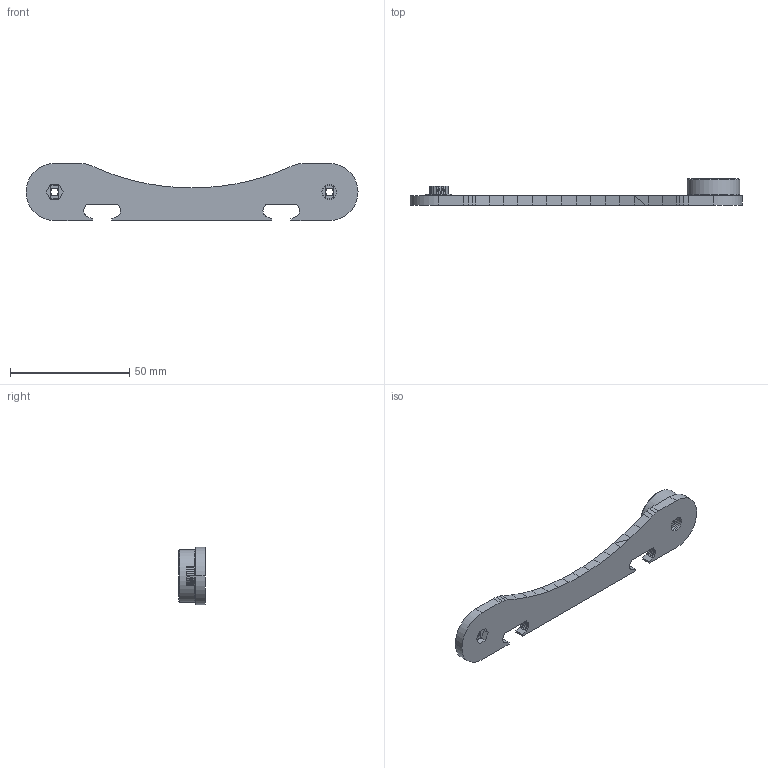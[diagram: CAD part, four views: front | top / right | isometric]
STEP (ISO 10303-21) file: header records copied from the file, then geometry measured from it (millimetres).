
FILE_DESCRIPTION(/* description */ (''),/* implementation_level */ '2;1');
FILE_NAME(/* name */ 'Rollerholder.step',/* time_stamp */ '2025-08-29T15:43:16+01:00',/* author */ (''),/* organization */ (''),/* preprocessor_version */ 'ST-DEVELOPER v20.1',/* originating_system */ 'Autodesk Translation Framework v14.10.0.0',/* authorisation */ '');
FILE_SCHEMA (('AUTOMOTIVE_DESIGN { 1 0 10303 214 3 1 1 }'));
Length unit declared in the file: millimetre
Products named in the file (2): Rollerholder (v10~recovered); 5972K91_Ball Bearing
Assembly tree (1 placements, depth 2):
  Rollerholder (v10~recovered)
    5972K91_Ball Bearing
Bounding box: 139 x 11 x 24 mm (x, y, z)
Volume: 11593.3 mm3; surface area: 9324.2 mm2
Topology: 11 solids, 11 shells, 541 faces, 1345 edges, 838 vertices
Faces by surface type: plane 466, cylinder 42, torus 15, sphere 14, cone 4
Full cylindrical faces by diameter (mm): 8 x1, 13.154 x2, 16.846 x2, 17.098 x2, 18.564 x2, 22 x1
Entity records: 15974 total; most frequent: CARTESIAN_POINT 3041, ORIENTED_EDGE 2662, DIRECTION 2578, EDGE_CURVE 1331, LINE 1048, VECTOR 1048, VERTEX_POINT 838, AXIS2_PLACEMENT_3D 765
